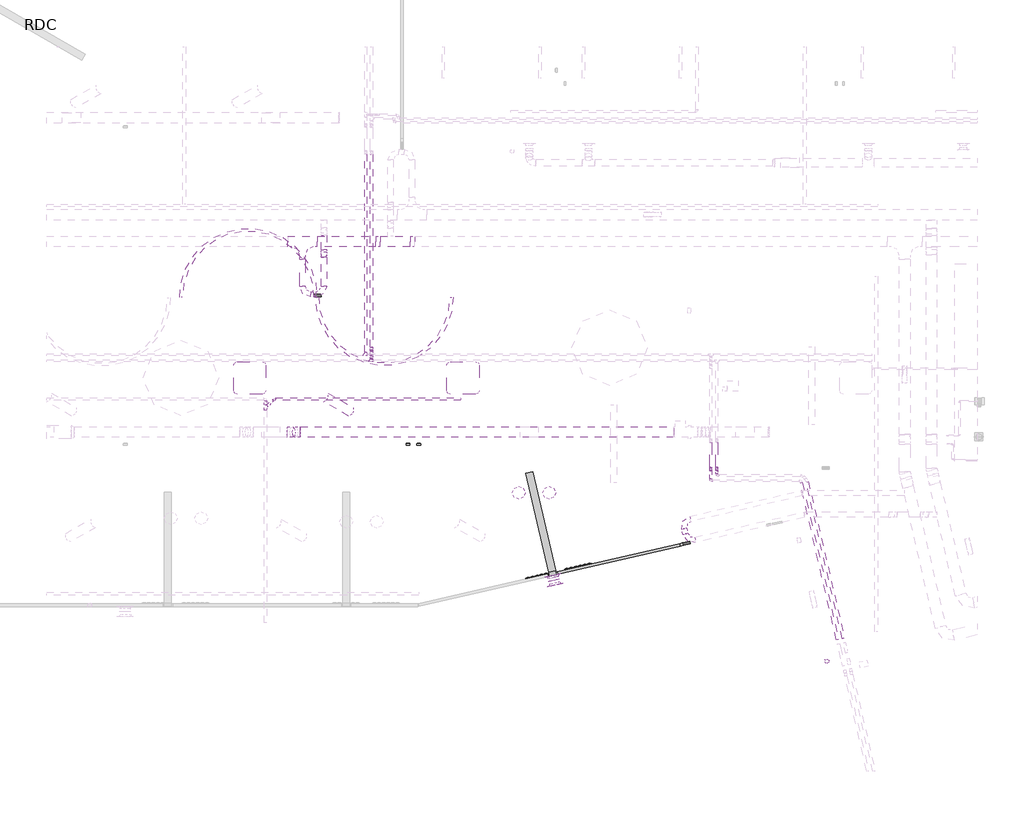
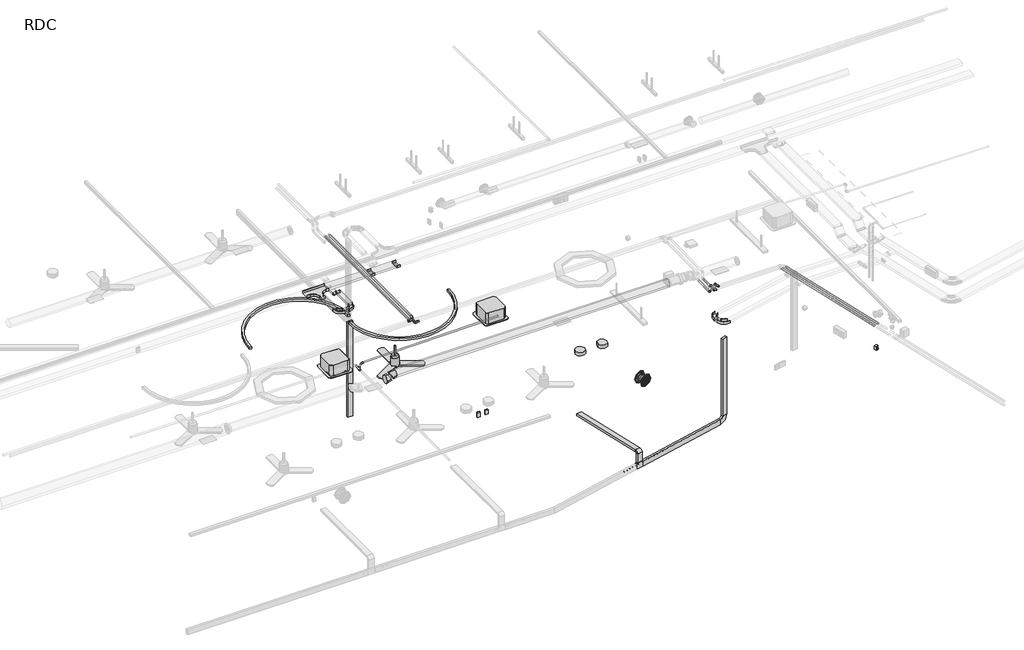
# One storey, part 5 of 15: 18 proxies, 16 pipe segments, 13 pipe fittings, 9 cable carrier fittings, 8 cable carrier segments, 7 duct segments, 5 duct fittings, 4 light fixtures, 2 air terminals.
"""IFC4 building model written with IfcOpenShell, lengths in millimetres."""

from ifc_helpers import new_model, si_unit, point, frame, frame_2d, origin, origin_with_axes, place, context, project, spatial, polyline, circle_curve, trimmed, segment, composite_curve, outline, extrude, transform, mapped, element, save
from components import air_terminal_8fbfe4fd, electrical_fixtures_f93b5bb2, electrical_fixtures_7208e772, security_devices_b28b6cb9, electrical_fixtures_3a4acf06, mechanical_equipment_4a9d14a3, cassette_600x600_07ba985d, cable_carrier_fitting_150mm_radius_0ad93986, standard_8ca7ba67, standaard_2330e57b, standaard_15b901d2, standaard_b1635a4a, coude_circulaire_1_d_01b5a2fb, coude_rectangulaire_rayon_1_w_45743452, coude_rectangulaire_rayon_1_w_bc62d8c9, standard_70f4f62f, ai_luminaire_concept_s_angle_d93a71be, ai_luminaire_spot_downlight_a3_0014797d, standard_c4f152d3, standard_378eef83, standard_a87af493, standard_ff5d54bc, standard_8dba9d94, standard_92dc9eea

model = new_model("IFC4")

# Units and contexts
model_context = context("Model", 3, world=origin())
ifc_project = project(units=[si_unit("LENGTHUNIT", "METRE", prefix="MILLI")], contexts=[model_context])

# Site, building, storey
site = spatial("IfcSite", under=ifc_project)
building = spatial("IfcBuilding", under=site)
storey = spatial("IfcBuildingStorey", under=building, Name="RDC", Elevation=0.0)

# Air terminals
placement = place(None, origin())
air_terminal_shape = air_terminal_8fbfe4fd(model_context)
element("IfcAirTerminal", 1, ObjectType="AI_Bouche aération_Circulaire Soufflage : ø200 mm", at=placement, inside=storey, context=model_context, shape_type="MappedRepresentation", body=[
    mapped(air_terminal_shape, transform((24759.6604659, 1522.5682878, 2675.0), x_axis=(0.9743700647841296, 0.22495105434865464, 0.0), y_axis=(0.0, 0.0, -1.0000000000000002), z_axis=(-0.22495105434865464, 0.9743700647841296, 0.0))),
])
element("IfcAirTerminal", 2, ObjectType="AI_Bouche aération_Circulaire Extraction : ø200 mm", at=placement, inside=storey, context=model_context, shape_type="MappedRepresentation", body=[
    mapped(air_terminal_shape, transform((24719.1692762, 1697.9548976, 2675.0), x_axis=(0.0, 0.0, 1.0), y_axis=(-0.9743700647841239, -0.22495105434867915, 0.0), z_axis=(0.22495105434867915, -0.9743700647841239, 0.0))),
])

# Proxies
electrical_fixtures_shape = electrical_fixtures_f93b5bb2(model_context)
element("IfcBuildingElementProxy", 3, Name="AI_Instal elec_Prise RJ45 : RJ 45 Murale", ObjectType="AI_Instal elec_Prise RJ45 : RJ 45 Murale", at=placement, inside=storey, context=model_context, shape_type="MappedRepresentation", body=[
    mapped(electrical_fixtures_shape, transform((25061.0709159, 1828.2043161, 300.0), x_axis=(0.9743700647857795, 0.22495105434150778, 0.0), y_axis=(-0.22495105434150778, 0.9743700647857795, 0.0), z_axis=(0.0, 0.0, 1.0))),
])
element("IfcBuildingElementProxy", 4, Name="AI_Instal elec_Prise RJ45 : RJ 45 Murale", ObjectType="AI_Instal elec_Prise RJ45 : RJ 45 Murale", at=placement, inside=storey, context=model_context, shape_type="MappedRepresentation", body=[
    mapped(electrical_fixtures_shape, transform((24978.2494604, 1809.0834765, 300.0), x_axis=(0.9743700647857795, 0.22495105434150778, 0.0), y_axis=(-0.22495105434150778, 0.9743700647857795, 0.0), z_axis=(0.0, 0.0, 1.0))),
])
element("IfcBuildingElementProxy", 5, Name="AI_Instal elec_Prise RJ45 : RJ 45 Murale", ObjectType="AI_Instal elec_Prise RJ45 : RJ 45 Murale", at=placement, inside=storey, context=model_context, shape_type="MappedRepresentation", body=[
    mapped(electrical_fixtures_shape, transform((24340.0370679, 1661.7405359, 300.0), x_axis=(0.9743700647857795, 0.22495105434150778, 0.0), y_axis=(-0.22495105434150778, 0.9743700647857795, 0.0), z_axis=(0.0, 0.0, 1.0))),
])
element("IfcBuildingElementProxy", 6, Name="AI_Instal elec_Prise RJ45 : RJ 45 Murale", ObjectType="AI_Instal elec_Prise RJ45 : RJ 45 Murale", at=placement, inside=storey, context=model_context, shape_type="MappedRepresentation", body=[
    mapped(electrical_fixtures_shape, transform((24257.2156124, 1642.6196962, 300.0), x_axis=(0.9743700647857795, 0.22495105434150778, 0.0), y_axis=(-0.22495105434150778, 0.9743700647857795, 0.0), z_axis=(0.0, 0.0, 1.0))),
])
electrical_fixtures_2_shape = electrical_fixtures_7208e772(model_context)
element("IfcBuildingElementProxy", 7, Name="AI_Instal elec_PC 16A +T à 0,30m : PC 16A +T à 0,30m", ObjectType="AI_Instal elec_PC 16A +T à 0,30m : PC 16A +T à 0,30m", at=placement, inside=storey, context=model_context, shape_type="MappedRepresentation", body=[
    mapped(electrical_fixtures_2_shape, transform((25392.3567379, 1904.6876746, 300.0), x_axis=(0.9743700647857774, 0.224951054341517, 0.0), y_axis=(-0.224951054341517, 0.9743700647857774, 0.0), z_axis=(0.0, 0.0, 1.0))),
])
element("IfcBuildingElementProxy", 8, Name="AI_Instal elec_PC 16A +T à 0,30m : PC 16A +T à 0,30m", ObjectType="AI_Instal elec_PC 16A +T à 0,30m : PC 16A +T à 0,30m", at=placement, inside=storey, context=model_context, shape_type="MappedRepresentation", body=[
    mapped(electrical_fixtures_2_shape, transform((25309.5352824, 1885.5668349, 300.0), x_axis=(0.9743700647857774, 0.224951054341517, 0.0), y_axis=(-0.224951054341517, 0.9743700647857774, 0.0), z_axis=(0.0, 0.0, 1.0))),
])
element("IfcBuildingElementProxy", 9, Name="AI_Instal elec_PC 16A +T à 0,30m : PC 16A +T à 0,30m", ObjectType="AI_Instal elec_PC 16A +T à 0,30m : PC 16A +T à 0,30m", at=placement, inside=storey, context=model_context, shape_type="MappedRepresentation", body=[
    mapped(electrical_fixtures_2_shape, transform((24671.32289, 1738.2238943, 300.0), x_axis=(0.9743700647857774, 0.224951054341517, 0.0), y_axis=(-0.224951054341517, 0.9743700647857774, 0.0), z_axis=(0.0, 0.0, 1.0))),
])
element("IfcBuildingElementProxy", 10, Name="AI_Instal elec_PC 16A +T à 0,30m : PC 16A +T à 0,30m", ObjectType="AI_Instal elec_PC 16A +T à 0,30m : PC 16A +T à 0,30m", at=placement, inside=storey, context=model_context, shape_type="MappedRepresentation", body=[
    mapped(electrical_fixtures_2_shape, transform((24588.5014345, 1719.1030547, 300.0), x_axis=(0.9743700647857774, 0.224951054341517, 0.0), y_axis=(-0.224951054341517, 0.9743700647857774, 0.0), z_axis=(0.0, 0.0, 1.0))),
])
element("IfcBuildingElementProxy", 11, Name="AI_Instal elec_Prise de courant 2P+T 16A ondulée : AI_Instal elec_Prise de courant 2P+T 16A ondulée", ObjectType="AI_Instal elec_Prise de courant 2P+T 16A ondulée : AI_Instal elec_Prise de courant 2P+T 16A ondulée", at=placement, inside=storey, context=model_context, shape_type="MappedRepresentation", body=[
    mapped(electrical_fixtures_2_shape, transform((25226.7138269, 1866.4459953, 300.0), x_axis=(0.974370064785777, 0.22495105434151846, 0.0), y_axis=(-0.22495105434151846, 0.974370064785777, 0.0), z_axis=(0.0, 0.0, 1.0))),
])
element("IfcBuildingElementProxy", 12, Name="AI_Instal elec_Prise de courant 2P+T 16A ondulée : AI_Instal elec_Prise de courant 2P+T 16A ondulée", ObjectType="AI_Instal elec_Prise de courant 2P+T 16A ondulée : AI_Instal elec_Prise de courant 2P+T 16A ondulée", at=placement, inside=storey, context=model_context, shape_type="MappedRepresentation", body=[
    mapped(electrical_fixtures_2_shape, transform((25143.8923714, 1847.3251557, 300.0), x_axis=(0.974370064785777, 0.22495105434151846, 0.0), y_axis=(-0.22495105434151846, 0.974370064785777, 0.0), z_axis=(0.0, 0.0, 1.0))),
])
element("IfcBuildingElementProxy", 13, Name="AI_Instal elec_Prise de courant 2P+T 16A ondulée : AI_Instal elec_Prise de courant 2P+T 16A ondulée", ObjectType="AI_Instal elec_Prise de courant 2P+T 16A ondulée : AI_Instal elec_Prise de courant 2P+T 16A ondulée", at=placement, inside=storey, context=model_context, shape_type="MappedRepresentation", body=[
    mapped(electrical_fixtures_2_shape, transform((24505.679979, 1699.9822151, 300.0), x_axis=(0.974370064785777, 0.22495105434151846, 0.0), y_axis=(-0.22495105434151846, 0.974370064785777, 0.0), z_axis=(0.0, 0.0, 1.0))),
])
element("IfcBuildingElementProxy", 14, Name="AI_Instal elec_Prise de courant 2P+T 16A ondulée : AI_Instal elec_Prise de courant 2P+T 16A ondulée", ObjectType="AI_Instal elec_Prise de courant 2P+T 16A ondulée : AI_Instal elec_Prise de courant 2P+T 16A ondulée", at=placement, inside=storey, context=model_context, shape_type="MappedRepresentation", body=[
    mapped(electrical_fixtures_2_shape, transform((24422.8585235, 1680.8613755, 300.0), x_axis=(0.974370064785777, 0.22495105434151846, 0.0), y_axis=(-0.22495105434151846, 0.974370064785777, 0.0), z_axis=(0.0, 0.0, 1.0))),
])
security_devices_shape = security_devices_b28b6cb9(model_context)
element("IfcBuildingElementProxy", 15, Name="AI_Disp secu_Détecteur volumétrique : Presence Detector - 70 x 100 x 70", ObjectType="AI_Disp secu_Détecteur volumétrique : Presence Detector - 70 x 100 x 70", at=placement, inside=storey, context=model_context, shape_type="MappedRepresentation", body=[
    mapped(security_devices_shape, transform((29780.0653035, 97.0381912, 2600.7684954), x_axis=(-0.22495105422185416, 0.9743700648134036, 0.0), y_axis=(-0.9743700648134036, -0.22495105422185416, 0.0), z_axis=(0.0, 0.0, 1.0))),
])
electrical_fixtures_3_shape = electrical_fixtures_3a4acf06(model_context)
element("IfcBuildingElementProxy", 16, Name="AI_Instal elec_Brasseur d'air : AI_Instal elec_Brasseur d'air", ObjectType="AI_Instal elec_Brasseur d'air : AI_Instal elec_Brasseur d'air", at=placement, inside=storey, context=model_context, shape_type="MappedRepresentation", body=[
    mapped(electrical_fixtures_3_shape, transform((20426.2200667, 5049.0927, 2500.0), x_axis=(1.0, 0.0, 0.0), y_axis=(0.0, 1.0, 0.0), z_axis=(0.0, 0.0, 1.0))),
])
mechanical_equipment_shape = mechanical_equipment_4a9d14a3(model_context)
element("IfcBuildingElementProxy", 17, Name="AI_Eqpmt genie clim_Commande murale Clim : Commande murale Clim", ObjectType="AI_Eqpmt genie clim_Commande murale Clim : Commande murale Clim", at=placement, inside=storey, context=model_context, shape_type="MappedRepresentation", body=[
    mapped(mechanical_equipment_shape, transform((22022.9133491, 4119.3027165, 1130.0), x_axis=(1.0, 0.0, 0.0), y_axis=(0.0, 1.0, 0.0), z_axis=(0.0, 0.0, 1.0))),
])
element("IfcBuildingElementProxy", 18, Name="AI_Eqpmt genie clim_Commande murale Clim : Commande murale Clim", ObjectType="AI_Eqpmt genie clim_Commande murale Clim : Commande murale Clim", at=placement, inside=storey, context=model_context, shape_type="MappedRepresentation", body=[
    mapped(mechanical_equipment_shape, transform((22222.9745923, 4119.3027165, 1130.0), x_axis=(1.0, 0.0, 0.0), y_axis=(0.0, 1.0, 0.0), z_axis=(0.0, 0.0, 1.0))),
])
cassette_600x600_shape = cassette_600x600_07ba985d(model_context)
element("IfcBuildingElementProxy", 19, Name="AI_Eqpmt genie clim_Cassette plafonnière : Cassette 600x600", ObjectType="AI_Eqpmt genie clim_Cassette plafonnière : Cassette 600x600", at=placement, inside=storey, context=model_context, shape_type="MappedRepresentation", body=[
    mapped(cassette_600x600_shape, transform((18217.2942225, 6159.5368143, 2660.0), x_axis=(1.0, 0.0, 0.0), y_axis=(0.0, 1.0, 0.0), z_axis=(0.0, 0.0, 1.0))),
])
element("IfcBuildingElementProxy", 20, Name="AI_Eqpmt genie clim_Cassette plafonnière : Cassette 600x600", ObjectType="AI_Eqpmt genie clim_Cassette plafonnière : Cassette 600x600", at=placement, inside=storey, context=model_context, shape_type="MappedRepresentation", body=[
    mapped(cassette_600x600_shape, transform((22177.2942225, 6159.5368143, 2680.0), x_axis=(1.0, 0.0, 0.0), y_axis=(0.0, 1.0, 0.0), z_axis=(0.0, 0.0, 1.0))),
])

# Cable carrier fittings
cable_carrier_fitting_150mm_radius_shape = cable_carrier_fitting_150mm_radius_0ad93986(model_context)
element("IfcCableCarrierFitting", 21, ObjectType="AI_Raccord cdc_Té : 150mm Radius", at=placement, inside=storey, context=model_context, shape_type="MappedRepresentation", body=[
    mapped(cable_carrier_fitting_150mm_radius_shape, transform((20062.4237892, 7902.2308907, 2856.9968882), x_axis=(1.0, 0.0, 0.0), y_axis=(0.0, 1.0, 0.0), z_axis=(0.0, 0.0, 1.0))),
])
standard_shape = standard_8ca7ba67(model_context)
element("IfcCableCarrierFitting", 22, ObjectType="Chemin de câbles - Union : Standard", at=placement, inside=storey, context=model_context, shape_type="MappedRepresentation", body=[
    mapped(standard_shape, transform((22068.8980101, 7902.2308907, 2856.9968882), x_axis=(1.0, 0.0, 0.0), y_axis=(0.0, 1.0, 0.0), z_axis=(0.0, 0.0, 1.0))),
])
element("IfcCableCarrierFitting", 23, ObjectType="Chemin de câbles - Union : Standard", at=placement, inside=storey, context=model_context, shape_type="MappedRepresentation", body=[
    mapped(standard_shape, transform((21428.8980101, 7902.2308907, 2856.9968882), x_axis=(1.0, 0.0, 0.0), y_axis=(0.0, 1.0, 0.0), z_axis=(0.0, 0.0, 1.0))),
])
standaard_shape = standaard_2330e57b(model_context)
element("IfcCableCarrierFitting", 24, ObjectType="AI_Raccord cdc_Coude desencdant : standaard", at=placement, inside=storey, context=model_context, shape_type="MappedRepresentation", body=[
    mapped(standaard_shape, transform((20462.4237892, 7625.8933593, 2856.9968882), x_axis=(0.0, 1.0, 0.0), y_axis=(0.0, 0.0, -1.0), z_axis=(-1.0, 0.0, 0.0))),
])
standaard_2_shape = standaard_15b901d2(model_context)
element("IfcCableCarrierFitting", 25, ObjectType="AI_Raccord cdc_Coude montant : standaard", at=placement, inside=storey, context=model_context, shape_type="MappedRepresentation", body=[
    mapped(standaard_2_shape, transform((20462.4237892, 7739.0304443, 2743.8598032), x_axis=(0.0, 0.7071067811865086, -0.7071067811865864), y_axis=(0.0, 0.7071067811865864, 0.7071067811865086), z_axis=(1.0, 0.0, 0.0))),
])
standaard_3_shape = standaard_b1635a4a(model_context)
element("IfcCableCarrierFitting", 26, ObjectType="AI_Raccord cdc_Coude horizontal rayon court : standaard", at=placement, inside=storey, context=model_context, shape_type="MappedRepresentation", body=[
    mapped(standaard_3_shape, transform((20462.4237892, 6923.5628771, 2856.9968882), x_axis=(1.0, 0.0, 0.0), y_axis=(0.0, 1.0, 0.0), z_axis=(0.0, 0.0, 1.0))),
])
element("IfcCableCarrierFitting", 27, ObjectType="AI_Raccord cdc_Coude horizontal rayon court : standaard", at=placement, inside=storey, context=model_context, shape_type="MappedRepresentation", body=[
    mapped(standaard_3_shape, transform((20062.4237892, 6923.5628771, 2856.9968882), x_axis=(0.0, -1.0, 0.0), y_axis=(1.0, 0.0, 0.0), z_axis=(0.0, 0.0, 1.0))),
])
element("IfcCableCarrierFitting", 28, ObjectType="AI_Raccord cdc_Coude horizontal rayon court : standaard", at=placement, inside=storey, context=model_context, shape_type="MappedRepresentation", body=[
    mapped(standaard_3_shape, transform((27211.977187, 2324.7755041, 2856.9968882), x_axis=(0.22495561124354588, -0.9743690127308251, 0.0), y_axis=(0.9743690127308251, 0.22495561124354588, 0.0), z_axis=(0.0, 0.0, 1.0))),
])
element("IfcCableCarrierFitting", 29, ObjectType="AI_Raccord cdc_Coude horizontal rayon court : standaard", at=placement, inside=storey, context=model_context, shape_type="MappedRepresentation", body=[
    mapped(standaard_3_shape, transform((27121.9949425, 2714.5231092, 2856.9968882), x_axis=(-0.9743690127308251, -0.22495561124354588, 0.0), y_axis=(0.22495561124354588, -0.9743690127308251, 0.0), z_axis=(0.0, 0.0, 1.0))),
])

# Cable carrier segments
element("IfcCableCarrierSegment", 30, ObjectType="Par défaut", at=placement, inside=storey, context=model_context, shape_type="SweptSolid", body=[
    extrude(outline(polyline([(21508.8980101, 7802.2308907), (21508.8980101, 8002.2308907), (22068.8980101, 8002.2308907), (22068.8980101, 7802.2308907), (21508.8980101, 7802.2308907)])), frame((0.0, 0.0, 2826.9968882), z_axis=(0.0, 0.0, 1.0), x_axis=(1.0, 0.0, 0.0)), (0.0, 0.0, 1.0), 60.0),
])
element("IfcCableCarrierSegment", 31, ObjectType="Par défaut", at=placement, inside=storey, context=model_context, shape_type="SweptSolid", body=[
    extrude(outline(polyline([(20112.4237892, 7074.5628771), (20012.4237892, 7074.5628771), (20012.4237892, 7577.2308907), (20112.4237892, 7577.2308907), (20112.4237892, 7074.5628771)])), frame((0.0, 0.0, 2826.9968882), z_axis=(0.0, 0.0, 1.0), x_axis=(1.0, 0.0, 0.0)), (0.0, 0.0, 1.0), 60.0),
])
element("IfcCableCarrierSegment", 32, ObjectType="Par défaut", at=placement, inside=storey, context=model_context, shape_type="SweptSolid", body=[
    extrude(outline(polyline([(20512.4237892, 7074.5628771), (20412.4237892, 7074.5628771), (20412.4237892, 7612.0527389), (20512.4237892, 7612.0527389), (20512.4237892, 7074.5628771)])), frame((0.0, 0.0, 2826.9968882), z_axis=(0.0, 0.0, 1.0), x_axis=(1.0, 0.0, 0.0)), (0.0, 0.0, 1.0), 60.0),
])
element("IfcCableCarrierSegment", 33, ObjectType="Par défaut", at=placement, inside=storey, context=model_context, shape_type="SweptSolid", body=[
    extrude(outline(polyline([(0.0, -100.0), (0.0, 0.0), (132.318759, 0.0), (132.318759, -100.0), (0.0, -100.0)])), frame((20412.4237892, 7614.4669525, 2825.9968882), z_axis=(0.0, 0.7071067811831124, 0.7071067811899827), x_axis=(0.0, 0.7071067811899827, -0.7071067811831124)), (0.0, 0.0, 1.0), 60.0),
])
element("IfcCableCarrierSegment", 34, ObjectType="Par défaut", at=placement, inside=storey, context=model_context, shape_type="SweptSolid", body=[
    extrude(outline(polyline([(20512.4237892, 7752.8710648), (20412.4237892, 7752.8710648), (20412.4237892, 8018.1097031), (20512.4237892, 8018.1097031), (20512.4237892, 7752.8710648)])), frame((0.0, 0.0, 2713.8598032), z_axis=(0.0, 0.0, 1.0), x_axis=(1.0, 0.0, 0.0)), (0.0, 0.0, 1.0), 60.0),
])
element("IfcCableCarrierSegment", 35, ObjectType="Par défaut", at=placement, inside=storey, context=model_context, shape_type="SweptSolid", body=[
    extrude(outline(polyline([(20311.4237892, 6973.5628771), (20311.4237892, 6873.5628771), (20213.4237892, 6873.5628771), (20213.4237892, 6973.5628771), (20311.4237892, 6973.5628771)])), frame((0.0, 0.0, 2826.9968882), z_axis=(0.0, 0.0, 1.0), x_axis=(1.0, 0.0, 0.0)), (0.0, 0.0, 1.0), 60.0),
])
element("IfcCableCarrierSegment", 36, ObjectType="Par défaut", at=placement, inside=storey, context=model_context, shape_type="SweptSolid", body=[
    extrude(outline(polyline([(21428.8980101, 8002.2308907), (21428.8980101, 7802.2308907), (20337.4237892, 7802.2308907), (20337.4237892, 8002.2308907), (21428.8980101, 8002.2308907)])), frame((0.0, 0.0, 2826.9968882), z_axis=(0.0, 0.0, 1.0), x_axis=(1.0, 0.0, 0.0)), (0.0, 0.0, 1.0), 60.0),
])
element("IfcCableCarrierSegment", 37, ObjectType="Par défaut", at=placement, inside=storey, context=model_context, shape_type="SweptSolid", body=[
    extrude(outline(polyline([(27226.7273403, 2483.1530056), (27129.2904391, 2460.6574444), (27107.2447892, 2556.1456077), (27204.6816904, 2578.6411688), (27226.7273403, 2483.1530056)])), frame((0.0, 0.0, 2826.9968882), z_axis=(0.0, 0.0, 1.0), x_axis=(1.0, 0.0, 0.0)), (0.0, 0.0, 1.0), 60.0),
])

# Duct fittings
coude_circulaire_1_d_shape = coude_circulaire_1_d_01b5a2fb(model_context)
element("IfcDuctFitting", 38, ObjectType="Coude circulaire : 1 D", at=placement, inside=storey, context=model_context, shape_type="MappedRepresentation", body=[
    mapped(coude_circulaire_1_d_shape, transform((19833.3563563, 4361.9215834, 2720.0), x_axis=(-0.8660254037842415, 0.0, -0.5000000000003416), y_axis=(-0.5000000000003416, 0.0, 0.8660254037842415), z_axis=(0.0, 1.0, 0.0))),
])
element("IfcDuctFitting", 39, ObjectType="Coude circulaire : 1 D", at=placement, inside=storey, context=model_context, shape_type="MappedRepresentation", body=[
    mapped(coude_circulaire_1_d_shape, transform((19971.9204209, 4361.9215834, 2800.0), x_axis=(0.8660254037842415, 0.0, 0.5000000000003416), y_axis=(0.5000000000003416, 0.0, -0.8660254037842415), z_axis=(0.0, 1.0, 0.0))),
])
coude_rectangulaire_rayon_1_w_shape = coude_rectangulaire_rayon_1_w_45743452(model_context)
element("IfcDuctFitting", 40, ObjectType="Coude rectangulaire - Rayon : 1 W", at=placement, inside=storey, context=model_context, shape_type="MappedRepresentation", body=[
    mapped(coude_rectangulaire_rayon_1_w_shape, transform((24713.5454998, 1722.3141492, 676.7942343), x_axis=(0.22495105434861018, -0.9743700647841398, 0.0), y_axis=(0.0, 0.0, -1.0000000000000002), z_axis=(0.9743700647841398, 0.22495105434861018, 0.0))),
])
coude_rectangulaire_rayon_1_w_2_shape = coude_rectangulaire_rayon_1_w_bc62d8c9(model_context)
element("IfcDuctFitting", 41, ObjectType="Coude rectangulaire - Rayon : 1 W", at=placement, inside=storey, context=model_context, shape_type="MappedRepresentation", body=[
    mapped(coude_rectangulaire_rayon_1_w_2_shape, transform((27202.2207661, 2296.8701062, 300.0), x_axis=(0.9743700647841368, 0.2249510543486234, 0.0), y_axis=(0.0, 0.0, 1.0000000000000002), z_axis=(0.2249510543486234, -0.9743700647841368, 0.0))),
])
standard_2_shape = standard_70f4f62f(model_context)
element("IfcDuctFitting", 42, ObjectType="Té rectangulaire : Standard", at=placement, inside=storey, context=model_context, shape_type="MappedRepresentation", body=[
    mapped(standard_2_shape, transform((24713.5454998, 1722.3141492, 300.0), x_axis=(-0.9743700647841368, -0.22495105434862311, 0.0), y_axis=(0.0, 0.0, -1.0), z_axis=(0.22495105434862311, -0.9743700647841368, 0.0))),
])

# Duct segments
element("IfcDuctSegment", 43, ObjectType="Circulaire - Té", at=placement, inside=storey, context=model_context, shape_type="SweptSolid", body=[
    extrude(outline(composite_curve([segment(trimmed(circle_curve(frame_2d((4361.9215834, 2800.0)), 100.0), [point((4461.9215834, 2800.0))], [point((4361.9215834, 2700.0))], False, "CARTESIAN"), True, "CONTINUOUS"), segment(trimmed(circle_curve(frame_2d((4361.9215834, 2800.0)), 100.0), [point((4361.9215834, 2700.0))], [point((4261.9215834, 2800.0))], False, "CARTESIAN"), True, "CONTINUOUS"), segment(trimmed(circle_curve(frame_2d((4361.9215834, 2800.0)), 100.0), [point((4261.9215834, 2800.0))], [point((4361.9215834, 2900.0))], False, "CARTESIAN"), True, "CONTINUOUS"), segment(trimmed(circle_curve(frame_2d((4361.9215834, 2800.0)), 100.0), [point((4361.9215834, 2900.0))], [point((4461.9215834, 2800.0))], False, "CARTESIAN"), True, "CONTINUOUS")], self_intersect=False)), frame((20025.5102594, 0.0, 0.0), z_axis=(1.0, 0.0, 0.0), x_axis=(0.0, 1.0, 0.0)), (0.0, 0.0, 1.0), 6937.4340993),
])
element("IfcDuctSegment", 44, ObjectType="Circulaire - Té", at=placement, inside=storey, context=model_context, shape_type="SweptSolid", body=[
    extrude(outline(composite_curve([segment(trimmed(circle_curve(frame_2d((0.0, -100.0)), 100.0), [point((-100.0, -100.0))], [point((0.0, 0.0))], False, "CARTESIAN"), True, "CONTINUOUS"), segment(trimmed(circle_curve(frame_2d((0.0, -100.0)), 100.0), [point((0.0, 0.0))], [point((100.0, -100.0))], False, "CARTESIAN"), True, "CONTINUOUS"), segment(trimmed(circle_curve(frame_2d((0.0, -100.0)), 100.0), [point((100.0, -100.0))], [point((0.0, -200.0))], False, "CARTESIAN"), True, "CONTINUOUS"), segment(trimmed(circle_curve(frame_2d((0.0, -100.0)), 100.0), [point((0.0, -200.0))], [point((-100.0, -100.0))], False, "CARTESIAN"), True, "CONTINUOUS")], self_intersect=False)), frame((24740.1797046, 1606.9487354, 2575.0), z_axis=(-0.22495110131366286, 0.9743700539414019, 0.0), x_axis=(0.9743700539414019, 0.22495110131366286, 0.0)), (0.0, 0.0, 1.0), 6.7999982),
])
element("IfcDuctSegment", 45, ObjectType="Goulotte", at=placement, inside=storey, context=model_context, shape_type="SweptSolid", body=[
    extrude(outline(polyline([(20408.140479, 6925.3065621), (20408.4862547, 6875.3077577), (20278.4893633, 6874.4087409), (20278.1435876, 6924.4075452), (20408.140479, 6925.3065621)])), origin_with_axes(), (0.0, 0.0, 1.0), 2546.9968882),
])
element("IfcDuctSegment", 46, ObjectType="Goulotte", at=placement, inside=storey, context=model_context, shape_type="SweptSolid", body=[
    extrude(outline(polyline([(27144.5104882, 2257.8890361), (27133.2629355, 2306.6075393), (27259.9310439, 2335.8511764), (27271.1785967, 2287.1326731), (27144.5104882, 2257.8890361)])), frame((0.0, 0.0, 430.0), z_axis=(0.0, 0.0, 1.0), x_axis=(1.0, 0.0, 0.0)), (0.0, 0.0, 1.0), 2070.0),
])
element("IfcDuctSegment", 47, ObjectType="Goulotte", at=placement, inside=storey, context=model_context, shape_type="SweptSolid", body=[
    extrude(outline(polyline([(24765.6320013, 1785.654471), (24638.9638929, 1756.4108339), (24213.8064002, 3597.9702564), (24340.4745086, 3627.2138934), (24765.6320013, 1785.654471)])), frame((0.0, 0.0, 651.7942343), z_axis=(0.0, 0.0, 1.0), x_axis=(1.0, 0.0, 0.0)), (0.0, 0.0, 1.0), 50.0),
])
element("IfcDuctSegment", 48, ObjectType="Goulotte", at=placement, inside=storey, context=model_context, shape_type="SweptSolid", body=[
    extrude(outline(polyline([(24655.835222, 1683.3330791), (24644.5876693, 1732.0515823), (24771.2557777, 1761.2952194), (24782.5033304, 1712.5767161), (24655.835222, 1683.3330791)])), frame((0.0, 0.0, 390.0), z_axis=(0.0, 0.0, 1.0), x_axis=(1.0, 0.0, 0.0)), (0.0, 0.0, 1.0), 236.7942343),
])
element("IfcDuctSegment", 49, ObjectType="Goulotte", at=placement, inside=storey, context=model_context, shape_type="SweptSolid", body=[
    extrude(outline(polyline([(27069.9288813, 2291.9857208), (27081.176434, 2243.2672176), (24806.862582, 1718.2004925), (24795.6150293, 1766.9189957), (27069.9288813, 2291.9857208)])), frame((0.0, 0.0, 235.0), z_axis=(0.0, 0.0, 1.0), x_axis=(1.0, 0.0, 0.0)), (0.0, 0.0, 1.0), 130.0),
])

# Light fixtures
ai_luminaire_concept_s_angle_shape = ai_luminaire_concept_s_angle_d93a71be(model_context)
element("IfcLightFixture", 50, ObjectType="AI_Luminaire_CONCEPT S_Angle : CONCEPTION S", at=placement, inside=storey, context=model_context, shape_type="MappedRepresentation", body=[
    mapped(ai_luminaire_concept_s_angle_shape, transform((20307.1962081, 6871.8786015, 2760.0), x_axis=(-0.9999999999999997, -2.7657710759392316e-08, 0.0), y_axis=(2.7657710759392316e-08, -0.9999999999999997, 0.0), z_axis=(0.0, 0.0, 1.0))),
])
element("IfcLightFixture", 51, ObjectType="AI_Luminaire_CONCEPT S_Angle : CONCEPTION S", at=placement, inside=storey, context=model_context, shape_type="MappedRepresentation", body=[
    mapped(ai_luminaire_concept_s_angle_shape, transform((20334.6962081, 6871.8786022, 2560.0), x_axis=(0.9999999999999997, 2.7657710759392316e-08, 0.0), y_axis=(-2.7657710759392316e-08, 0.9999999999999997, 0.0), z_axis=(0.0, 0.0, 1.0))),
])
ai_luminaire_spot_downlight_a3_shape = ai_luminaire_spot_downlight_a3_0014797d(model_context)
element("IfcLightFixture", 52, ObjectType="AI_Luminaire_Spot Downlight : A3", at=placement, inside=storey, context=model_context, shape_type="MappedRepresentation", body=[
    mapped(ai_luminaire_spot_downlight_a3_shape, transform((24648.543313, 3232.8765089, 2700.0), x_axis=(-1.0, 0.0, 0.0), y_axis=(0.0, -1.0, 0.0), z_axis=(0.0, 0.0, 1.0))),
])
element("IfcLightFixture", 53, ObjectType="AI_Luminaire_Spot Downlight : A3", at=placement, inside=storey, context=model_context, shape_type="MappedRepresentation", body=[
    mapped(ai_luminaire_spot_downlight_a3_shape, transform((24085.4652987, 3232.8765089, 2700.0), x_axis=(1.0, 0.0, 0.0), y_axis=(0.0, 1.0, 0.0), z_axis=(0.0, 0.0, 1.0))),
])

# Pipe fittings
standard_3_shape = standard_c4f152d3(model_context)
element("IfcPipeFitting", 54, ObjectType="Coude - Générique1 : Standard", at=placement, inside=storey, context=model_context, shape_type="MappedRepresentation", body=[
    mapped(standard_3_shape, transform((19537.7457994, 4977.4866519, 2876.2148571), x_axis=(-0.9999500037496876, 0.0, -0.009999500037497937), y_axis=(0.00010231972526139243, -0.9999476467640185, -0.010231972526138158), z_axis=(-0.009998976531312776, -0.010232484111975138, 0.9998976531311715))),
])
standard_4_shape = standard_378eef83(model_context)
element("IfcPipeFitting", 55, ObjectType="Té - Générique : Standard", at=placement, inside=storey, context=model_context, shape_type="MappedRepresentation", body=[
    mapped(standard_4_shape, transform((19376.3565739, 4816.0974286, 2872.991766), x_axis=(0.0, 0.9999500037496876, 0.009999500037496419), y_axis=(-0.9999476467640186, 0.00010231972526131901, -0.010231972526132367), z_axis=(-0.010232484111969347, -0.009998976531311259, 0.9998976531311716))),
])
standard_5_shape = standard_a87af493(model_context)
element("IfcPipeFitting", 56, ObjectType="Coude - Générique1 : Standard", at=placement, inside=storey, context=model_context, shape_type="MappedRepresentation", body=[
    mapped(standard_5_shape, transform((21348.6271336, 5842.9287758, 2856.7309575), x_axis=(0.0, -0.7071067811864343, -0.7071067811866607), y_axis=(0.0, -0.7071067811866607, 0.7071067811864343), z_axis=(-1.0, 0.0, 0.0))),
])
element("IfcPipeFitting", 57, ObjectType="Coude - Générique1 : Standard", at=placement, inside=storey, context=model_context, shape_type="MappedRepresentation", body=[
    mapped(standard_5_shape, transform((21348.6271336, 5749.5383893, 2856.7309575), x_axis=(0.0, -1.0, 0.0), y_axis=(0.0, 0.0, 1.0), z_axis=(-1.0, 0.0, 0.0))),
])
element("IfcPipeFitting", 58, ObjectType="Coude - Générique1 : Standard", at=placement, inside=storey, context=model_context, shape_type="MappedRepresentation", body=[
    mapped(standard_5_shape, transform((21348.6271336, 5904.4973183, 2918.2995), x_axis=(0.0, 0.7071067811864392, 0.7071067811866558), y_axis=(0.0, 0.7071067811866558, -0.7071067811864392), z_axis=(-1.0, 0.0, 0.0))),
])
standard_6_shape = standard_ff5d54bc(model_context)
element("IfcPipeFitting", 59, ObjectType="Té - Générique : Standard", at=placement, inside=storey, context=model_context, shape_type="MappedRepresentation", body=[
    mapped(standard_6_shape, transform((21348.6271336, 5687.9698468, 2918.2995), x_axis=(1.0, 0.0, 0.0), y_axis=(0.0, -0.7071067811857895, 0.7071067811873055), z_axis=(0.0, -0.7071067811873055, -0.7071067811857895))),
])
standard_7_shape = standard_8dba9d94(model_context)
element("IfcPipeFitting", 60, ObjectType="Coude - Générique1 : Standard", at=placement, inside=storey, context=model_context, shape_type="MappedRepresentation", body=[
    mapped(standard_7_shape, transform((27763.260576, 3675.2844533, 2730.0), x_axis=(0.0, -1.0, 0.0), y_axis=(0.0, 0.0, 1.0), z_axis=(-1.0, 0.0, 0.0))),
])
element("IfcPipeFitting", 61, ObjectType="Coude - Générique1 : Standard", at=placement, inside=storey, context=model_context, shape_type="MappedRepresentation", body=[
    mapped(standard_7_shape, transform((27763.260576, 3555.9392717, 2918.2995), x_axis=(0.0, -1.0, 0.0), y_axis=(1.0, 0.0, 0.0), z_axis=(0.0, 0.0, 1.0))),
])
element("IfcPipeFitting", 62, ObjectType="Coude - Générique1 : Standard", at=placement, inside=storey, context=model_context, shape_type="MappedRepresentation", body=[
    mapped(standard_7_shape, transform((27763.260576, 3675.2844533, 2918.2995), x_axis=(0.0, 0.0, 1.0), y_axis=(0.0, -1.0, 0.0), z_axis=(1.0, 0.0, 0.0))),
])
element("IfcPipeFitting", 63, ObjectType="Coude - Générique1 : Standard", at=placement, inside=storey, context=model_context, shape_type="MappedRepresentation", body=[
    mapped(standard_7_shape, transform((27648.460576, 3675.2844533, 2730.0), x_axis=(0.0, -1.0, 0.0), y_axis=(0.0, 0.0, 1.0), z_axis=(-1.0, 0.0, 0.0))),
])
element("IfcPipeFitting", 64, ObjectType="Coude - Générique1 : Standard", at=placement, inside=storey, context=model_context, shape_type="MappedRepresentation", body=[
    mapped(standard_7_shape, transform((27648.460576, 3459.4864212, 2918.2995), x_axis=(0.0, -1.0, 0.0), y_axis=(1.0, 0.0, 0.0), z_axis=(0.0, 0.0, 1.0))),
])
element("IfcPipeFitting", 65, ObjectType="Coude - Générique1 : Standard", at=placement, inside=storey, context=model_context, shape_type="MappedRepresentation", body=[
    mapped(standard_7_shape, transform((27648.460576, 3675.2844533, 2918.2995), x_axis=(0.0, 0.0, 1.0), y_axis=(0.0, -1.0, 0.0), z_axis=(1.0, 0.0, 0.0))),
])
standard_8_shape = standard_92dc9eea(model_context)
element("IfcPipeFitting", 66, ObjectType="Té - Générique : Standard", at=placement, inside=storey, context=model_context, shape_type="MappedRepresentation", body=[
    mapped(standard_8_shape, transform((21241.0704939, 5798.6260421, 2918.2995), x_axis=(0.999999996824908, 7.968804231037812e-05, 0.0), y_axis=(7.968804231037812e-05, -0.999999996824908, 0.0), z_axis=(0.0, 0.0, -1.0))),
])

# Pipe segments
element("IfcPipeSegment", 67, ObjectType="Acier - Té", at=placement, inside=storey, context=model_context, shape_type="SweptSolid", body=[
    extrude(outline(composite_curve([segment(trimmed(circle_curve(frame_2d((0.0, 21.082)), 21.082), [point((21.082, 21.082))], [point((0.0, 0.0))], False, "CARTESIAN"), True, "CONTINUOUS"), segment(trimmed(circle_curve(frame_2d((0.0, 21.082)), 21.082), [point((0.0, 0.0))], [point((-21.082, 21.082))], False, "CARTESIAN"), True, "CONTINUOUS"), segment(trimmed(circle_curve(frame_2d((0.0, 21.082)), 21.082), [point((-21.082, 21.082))], [point((0.0, 42.164))], False, "CARTESIAN"), True, "CONTINUOUS"), segment(trimmed(circle_curve(frame_2d((0.0, 21.082)), 21.082), [point((0.0, 42.164))], [point((21.082, 21.082))], False, "CARTESIAN"), True, "CONTINUOUS")], self_intersect=False)), frame((30114.0937146, 529.5434561, 2939.3815), z_axis=(-0.22496403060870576, 0.9743670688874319, 0.0), x_axis=(0.9743670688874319, 0.22496403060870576, 0.0)), (0.0, 0.0, 1.0), 2988.0),
])
element("IfcPipeSegment", 68, ObjectType="Acier - Té", at=placement, inside=storey, context=model_context, shape_type="SweptSolid", body=[
    extrude(outline(composite_curve([segment(trimmed(circle_curve(frame_2d((2918.2995, 27763.260576)), 21.082), [point((2918.2995, 27784.342576))], [point((2939.3815, 27763.260576))], False, "CARTESIAN"), True, "CONTINUOUS"), segment(trimmed(circle_curve(frame_2d((2918.2995, 27763.260576)), 21.082), [point((2939.3815, 27763.260576))], [point((2918.2995, 27742.178576))], False, "CARTESIAN"), True, "CONTINUOUS"), segment(trimmed(circle_curve(frame_2d((2918.2995, 27763.260576)), 21.082), [point((2918.2995, 27742.178576))], [point((2897.2175, 27763.260576))], False, "CARTESIAN"), True, "CONTINUOUS"), segment(trimmed(circle_curve(frame_2d((2918.2995, 27763.260576)), 21.082), [point((2897.2175, 27763.260576))], [point((2918.2995, 27784.342576))], False, "CARTESIAN"), True, "CONTINUOUS")], self_intersect=False)), frame((0.0, 3587.9392717, 0.0), z_axis=(0.0, 1.0, 0.0), x_axis=(0.0, 0.0, 1.0)), (0.0, 0.0, 1.0), 55.3451816),
])
element("IfcPipeSegment", 69, ObjectType="Acier - Té", at=placement, inside=storey, context=model_context, shape_type="SweptSolid", body=[
    extrude(outline(composite_curve([segment(trimmed(circle_curve(frame_2d((2918.2995, 27648.460576)), 21.082), [point((2918.2995, 27669.542576))], [point((2939.3815, 27648.460576))], False, "CARTESIAN"), True, "CONTINUOUS"), segment(trimmed(circle_curve(frame_2d((2918.2995, 27648.460576)), 21.082), [point((2939.3815, 27648.460576))], [point((2918.2995, 27627.378576))], False, "CARTESIAN"), True, "CONTINUOUS"), segment(trimmed(circle_curve(frame_2d((2918.2995, 27648.460576)), 21.082), [point((2918.2995, 27627.378576))], [point((2897.2175, 27648.460576))], False, "CARTESIAN"), True, "CONTINUOUS"), segment(trimmed(circle_curve(frame_2d((2918.2995, 27648.460576)), 21.082), [point((2897.2175, 27648.460576))], [point((2918.2995, 27669.542576))], False, "CARTESIAN"), True, "CONTINUOUS")], self_intersect=False)), frame((0.0, 3491.4864212, 0.0), z_axis=(0.0, 1.0, 0.0), x_axis=(0.0, 0.0, 1.0)), (0.0, 0.0, 1.0), 151.7980321),
])
element("IfcPipeSegment", 70, ObjectType="Acier - Té", at=placement, inside=storey, context=model_context, shape_type="SweptSolid", body=[
    extrude(outline(composite_curve([segment(trimmed(circle_curve(frame_2d((2730.0, 27648.460576)), 21.082), [point((2730.0, 27669.542576))], [point((2751.082, 27648.460576))], False, "CARTESIAN"), True, "CONTINUOUS"), segment(trimmed(circle_curve(frame_2d((2730.0, 27648.460576)), 21.082), [point((2751.082, 27648.460576))], [point((2730.0, 27627.378576))], False, "CARTESIAN"), True, "CONTINUOUS"), segment(trimmed(circle_curve(frame_2d((2730.0, 27648.460576)), 21.082), [point((2730.0, 27627.378576))], [point((2708.918, 27648.460576))], False, "CARTESIAN"), True, "CONTINUOUS"), segment(trimmed(circle_curve(frame_2d((2730.0, 27648.460576)), 21.082), [point((2708.918, 27648.460576))], [point((2730.0, 27669.542576))], False, "CARTESIAN"), True, "CONTINUOUS")], self_intersect=False)), frame((0.0, 3707.2844533, 0.0), z_axis=(0.0, 1.0, 0.0), x_axis=(0.0, 0.0, 1.0)), (0.0, 0.0, 1.0), 469.5524039),
])
element("IfcPipeSegment", 71, ObjectType="Acier - Té", at=placement, inside=storey, context=model_context, shape_type="SweptSolid", body=[
    extrude(outline(composite_curve([segment(trimmed(circle_curve(frame_2d((2730.0, 27763.260576)), 21.082), [point((2730.0, 27784.342576))], [point((2751.082, 27763.260576))], False, "CARTESIAN"), True, "CONTINUOUS"), segment(trimmed(circle_curve(frame_2d((2730.0, 27763.260576)), 21.082), [point((2751.082, 27763.260576))], [point((2730.0, 27742.178576))], False, "CARTESIAN"), True, "CONTINUOUS"), segment(trimmed(circle_curve(frame_2d((2730.0, 27763.260576)), 21.082), [point((2730.0, 27742.178576))], [point((2708.918, 27763.260576))], False, "CARTESIAN"), True, "CONTINUOUS"), segment(trimmed(circle_curve(frame_2d((2730.0, 27763.260576)), 21.082), [point((2708.918, 27763.260576))], [point((2730.0, 27784.342576))], False, "CARTESIAN"), True, "CONTINUOUS")], self_intersect=False)), frame((0.0, 3707.2844533, 0.0), z_axis=(0.0, 1.0, 0.0), x_axis=(0.0, 0.0, 1.0)), (0.0, 0.0, 1.0), 469.5524039),
])
element("IfcPipeSegment", 72, ObjectType="Acier - Té", at=placement, inside=storey, context=model_context, shape_type="SweptSolid", body=[
    extrude(outline(composite_curve([segment(trimmed(circle_curve(frame_2d((27763.260576, 3675.2844533)), 21.082), [point((27742.178576, 3675.2844533))], [point((27763.260576, 3696.3664533))], False, "CARTESIAN"), True, "CONTINUOUS"), segment(trimmed(circle_curve(frame_2d((27763.260576, 3675.2844533)), 21.082), [point((27763.260576, 3696.3664533))], [point((27784.342576, 3675.2844533))], False, "CARTESIAN"), True, "CONTINUOUS"), segment(trimmed(circle_curve(frame_2d((27763.260576, 3675.2844533)), 21.082), [point((27784.342576, 3675.2844533))], [point((27763.260576, 3654.2024533))], False, "CARTESIAN"), True, "CONTINUOUS"), segment(trimmed(circle_curve(frame_2d((27763.260576, 3675.2844533)), 21.082), [point((27763.260576, 3654.2024533))], [point((27742.178576, 3675.2844533))], False, "CARTESIAN"), True, "CONTINUOUS")], self_intersect=False)), frame((0.0, 0.0, 2762.0), z_axis=(0.0, 0.0, 1.0), x_axis=(1.0, 0.0, 0.0)), (0.0, 0.0, 1.0), 124.2995),
])
element("IfcPipeSegment", 73, ObjectType="Acier - Té", at=placement, inside=storey, context=model_context, shape_type="SweptSolid", body=[
    extrude(outline(composite_curve([segment(trimmed(circle_curve(frame_2d((27648.460576, 3675.2844533)), 21.082), [point((27627.378576, 3675.2844533))], [point((27648.460576, 3696.3664533))], False, "CARTESIAN"), True, "CONTINUOUS"), segment(trimmed(circle_curve(frame_2d((27648.460576, 3675.2844533)), 21.082), [point((27648.460576, 3696.3664533))], [point((27669.542576, 3675.2844533))], False, "CARTESIAN"), True, "CONTINUOUS"), segment(trimmed(circle_curve(frame_2d((27648.460576, 3675.2844533)), 21.082), [point((27669.542576, 3675.2844533))], [point((27648.460576, 3654.2024533))], False, "CARTESIAN"), True, "CONTINUOUS"), segment(trimmed(circle_curve(frame_2d((27648.460576, 3675.2844533)), 21.082), [point((27648.460576, 3654.2024533))], [point((27627.378576, 3675.2844533))], False, "CARTESIAN"), True, "CONTINUOUS")], self_intersect=False)), frame((0.0, 0.0, 2762.0), z_axis=(0.0, 0.0, 1.0), x_axis=(1.0, 0.0, 0.0)), (0.0, 0.0, 1.0), 124.2995),
])
element("IfcPipeSegment", 74, ObjectType="Acier - Té", at=placement, inside=storey, context=model_context, shape_type="SweptSolid", body=[
    extrude(outline(composite_curve([segment(trimmed(circle_curve(frame_2d((0.0, 21.082)), 21.082), [point((0.0, 42.164))], [point((21.082, 21.082))], False, "CARTESIAN"), True, "CONTINUOUS"), segment(trimmed(circle_curve(frame_2d((0.0, 21.082)), 21.082), [point((21.082, 21.082))], [point((0.0, 0.0))], False, "CARTESIAN"), True, "CONTINUOUS"), segment(trimmed(circle_curve(frame_2d((0.0, 21.082)), 21.082), [point((0.0, 0.0))], [point((-21.082, 21.082))], False, "CARTESIAN"), True, "CONTINUOUS"), segment(trimmed(circle_curve(frame_2d((0.0, 21.082)), 21.082), [point((-21.082, 21.082))], [point((0.0, 42.164))], False, "CARTESIAN"), True, "CONTINUOUS")], self_intersect=False)), frame((21219.9884939, 5846.6260424, 2918.2995), z_axis=(1.629491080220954e-08, 1.0, 0.0), x_axis=(0.0, 0.0, 1.0)), (0.0, 0.0, 1.0), 3679.0039772),
])
element("IfcPipeSegment", 75, ObjectType="Acier - Té", at=placement, inside=storey, context=model_context, shape_type="SweptSolid", body=[
    extrude(outline(composite_curve([segment(trimmed(circle_curve(frame_2d((2918.2995, 21348.6271336)), 21.082), [point((2918.2995, 21369.7091336))], [point((2939.3815, 21348.6271336))], False, "CARTESIAN"), True, "CONTINUOUS"), segment(trimmed(circle_curve(frame_2d((2918.2995, 21348.6271336)), 21.082), [point((2939.3815, 21348.6271336))], [point((2918.2995, 21327.5451336))], False, "CARTESIAN"), True, "CONTINUOUS"), segment(trimmed(circle_curve(frame_2d((2918.2995, 21348.6271336)), 21.082), [point((2918.2995, 21327.5451336))], [point((2897.2175, 21348.6271336))], False, "CARTESIAN"), True, "CONTINUOUS"), segment(trimmed(circle_curve(frame_2d((2918.2995, 21348.6271336)), 21.082), [point((2897.2175, 21348.6271336))], [point((2918.2995, 21369.7091336))], False, "CARTESIAN"), True, "CONTINUOUS")], self_intersect=False)), frame((0.0, 5936.4973183, 0.0), z_axis=(0.0, 1.0, 0.0), x_axis=(0.0, 0.0, 1.0)), (0.0, 0.0, 1.0), 3589.132701),
])
element("IfcPipeSegment", 76, ObjectType="Acier - Té", at=placement, inside=storey, context=model_context, shape_type="SweptSolid", body=[
    extrude(outline(composite_curve([segment(trimmed(circle_curve(frame_2d((0.0, -21.0820001)), 21.082), [point((-21.082, -21.0820001))], [point((0.0, 0.0))], False, "CARTESIAN"), True, "CONTINUOUS"), segment(trimmed(circle_curve(frame_2d((0.0, -21.0820001)), 21.082), [point((0.0, 0.0))], [point((21.082, -21.0820001))], False, "CARTESIAN"), True, "CONTINUOUS"), segment(trimmed(circle_curve(frame_2d((0.0, -21.0820001)), 21.082), [point((21.082, -21.0820001))], [point((0.0, -42.164))], False, "CARTESIAN"), True, "CONTINUOUS"), segment(trimmed(circle_curve(frame_2d((0.0, -21.0820001)), 21.082), [point((0.0, -42.164))], [point((-21.082, -21.0820001))], False, "CARTESIAN"), True, "CONTINUOUS")], self_intersect=False)), frame((21348.6271336, 5880.463418, 2864.4511493), z_axis=(0.0, 0.707106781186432, 0.7071067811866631), x_axis=(1.0, 0.0, 0.0)), (0.0, 0.0, 1.0), 23.0710678),
])
element("IfcPipeSegment", 77, ObjectType="Acier - Té", at=placement, inside=storey, context=model_context, shape_type="SweptSolid", body=[
    extrude(outline(composite_curve([segment(trimmed(circle_curve(frame_2d((2856.7309575, 21348.6271336)), 21.082), [point((2856.7309575, 21327.5451336))], [point((2835.6489575, 21348.6271336))], False, "CARTESIAN"), True, "CONTINUOUS"), segment(trimmed(circle_curve(frame_2d((2856.7309575, 21348.6271336)), 21.082), [point((2835.6489575, 21348.6271336))], [point((2856.7309575, 21369.7091336))], False, "CARTESIAN"), True, "CONTINUOUS"), segment(trimmed(circle_curve(frame_2d((2856.7309575, 21348.6271336)), 21.082), [point((2856.7309575, 21369.7091336))], [point((2877.8129575, 21348.6271336))], False, "CARTESIAN"), True, "CONTINUOUS"), segment(trimmed(circle_curve(frame_2d((2856.7309575, 21348.6271336)), 21.082), [point((2877.8129575, 21348.6271336))], [point((2856.7309575, 21327.5451336))], False, "CARTESIAN"), True, "CONTINUOUS")], self_intersect=False)), frame((0.0, 5781.5383893, 0.0), z_axis=(0.0, 1.0, 0.0), x_axis=(0.0, 0.0, 1.0)), (0.0, 0.0, 1.0), 29.3903865),
])
element("IfcPipeSegment", 78, ObjectType="Acier - Té", at=placement, inside=storey, context=model_context, shape_type="SweptSolid", body=[
    extrude(outline(composite_curve([segment(trimmed(circle_curve(frame_2d((0.0, 21.0820001)), 21.082), [point((-21.082, 21.0820001))], [point((0.0, 42.1640001))], False, "CARTESIAN"), True, "CONTINUOUS"), segment(trimmed(circle_curve(frame_2d((0.0, 21.0820001)), 21.082), [point((0.0, 42.1640001))], [point((21.082, 21.0820001))], False, "CARTESIAN"), True, "CONTINUOUS"), segment(trimmed(circle_curve(frame_2d((0.0, 21.0820001)), 21.082), [point((21.082, 21.0820001))], [point((0.0, 0.0))], False, "CARTESIAN"), True, "CONTINUOUS"), segment(trimmed(circle_curve(frame_2d((0.0, 21.0820001)), 21.082), [point((0.0, 0.0))], [point((-21.082, 21.0820001))], False, "CARTESIAN"), True, "CONTINUOUS")], self_intersect=False)), frame((21348.6271336, 5712.0037471, 2864.4511493), z_axis=(0.0, -0.7071067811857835, 0.7071067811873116), x_axis=(1.0, 0.0, 0.0)), (0.0, 0.0, 1.0), 7.0710678),
])
element("IfcPipeSegment", 79, ObjectType="Acier - Té", at=placement, inside=storey, context=model_context, shape_type="SweptSolid", body=[
    extrude(outline(composite_curve([segment(trimmed(circle_curve(frame_2d((0.0, -21.082)), 21.082), [point((-2.92e-05, 0.0))], [point((21.082, -21.0819708))], False, "CARTESIAN"), True, "CONTINUOUS"), segment(trimmed(circle_curve(frame_2d((0.0, -21.082)), 21.082), [point((21.082, -21.0819708))], [point((2.91e-05, -42.164))], False, "CARTESIAN"), True, "CONTINUOUS"), segment(trimmed(circle_curve(frame_2d((0.0, -21.082)), 21.082), [point((2.91e-05, -42.164))], [point((-21.082, -21.0820292))], False, "CARTESIAN"), True, "CONTINUOUS"), segment(trimmed(circle_curve(frame_2d((0.0, -21.082)), 21.082), [point((-21.082, -21.0820292))], [point((-2.92e-05, 0.0))], False, "CARTESIAN"), True, "CONTINUOUS")], self_intersect=False)), frame((19569.7441995, 4998.5686519, 2876.5348119), z_axis=(0.9999500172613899, 1.3828164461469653e-08, 0.00999814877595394), x_axis=(0.009998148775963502, -1.3830033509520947e-06, -0.9999500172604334)), (0.0, 0.0, 1.0), 3438.6026588),
])
element("IfcPipeSegment", 80, ObjectType="Acier - Té", at=placement, inside=storey, context=model_context, shape_type="SweptSolid", body=[
    extrude(outline(composite_curve([segment(trimmed(circle_curve(frame_2d((0.0, -21.082)), 21.082), [point((-21.0798431, -20.7804359))], [point((0.3015641, -0.002157))], False, "CARTESIAN"), True, "CONTINUOUS"), segment(trimmed(circle_curve(frame_2d((0.0, -21.082)), 21.082), [point((0.3015641, -0.002157))], [point((21.0798431, -21.3835641))], False, "CARTESIAN"), True, "CONTINUOUS"), segment(trimmed(circle_curve(frame_2d((0.0, -21.082)), 21.082), [point((21.0798431, -21.3835641))], [point((-0.3015641, -42.1618431))], False, "CARTESIAN"), True, "CONTINUOUS"), segment(trimmed(circle_curve(frame_2d((0.0, -21.082)), 21.082), [point((-0.3015641, -42.1618431))], [point((-21.0798431, -20.7804359))], False, "CARTESIAN"), True, "CONTINUOUS")], self_intersect=False)), frame((19412.3753869, 4852.5427176, 2852.6428679), z_axis=(0.7070344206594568, 0.7070344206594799, 0.014305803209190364), x_axis=(0.7071791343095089, -0.7068897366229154, -0.014302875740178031)), (0.0, 0.0, 1.0), 145.3180753),
])
element("IfcPipeSegment", 81, ObjectType="Acier - Té", at=placement, inside=storey, context=model_context, shape_type="SweptSolid", body=[
    extrude(outline(composite_curve([segment(trimmed(circle_curve(frame_2d((0.0, -21.082)), 21.082), [point((-21.082, -21.082))], [point((0.0, 0.0))], False, "CARTESIAN"), True, "CONTINUOUS"), segment(trimmed(circle_curve(frame_2d((0.0, -21.082)), 21.082), [point((0.0, 0.0))], [point((21.082, -21.082))], False, "CARTESIAN"), True, "CONTINUOUS"), segment(trimmed(circle_curve(frame_2d((0.0, -21.082)), 21.082), [point((21.082, -21.082))], [point((0.0, -42.1639999))], False, "CARTESIAN"), True, "CONTINUOUS"), segment(trimmed(circle_curve(frame_2d((0.0, -21.082)), 21.082), [point((0.0, -42.1639999))], [point((-21.082, -21.082))], False, "CARTESIAN"), True, "CONTINUOUS")], self_intersect=False)), frame((19376.356575, 4867.2411993, 2853.2201092), z_axis=(0.0, 0.9999500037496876, 0.009999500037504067), x_axis=(1.0, 0.0, 0.0)), (0.0, 0.0, 1.0), 78.4617815),
])
element("IfcPipeSegment", 82, ObjectType="Acier - Té", at=placement, inside=storey, context=model_context, shape_type="SweptSolid", body=[
    extrude(outline(composite_curve([segment(trimmed(circle_curve(frame_2d((0.0, -21.082)), 21.082), [point((-21.082, -21.082))], [point((0.0, 0.0))], False, "CARTESIAN"), True, "CONTINUOUS"), segment(trimmed(circle_curve(frame_2d((0.0, -21.082)), 21.082), [point((0.0, 0.0))], [point((21.082, -21.082))], False, "CARTESIAN"), True, "CONTINUOUS"), segment(trimmed(circle_curve(frame_2d((0.0, -21.082)), 21.082), [point((21.082, -21.082))], [point((0.0, -42.164))], False, "CARTESIAN"), True, "CONTINUOUS"), segment(trimmed(circle_curve(frame_2d((0.0, -21.082)), 21.082), [point((0.0, -42.164))], [point((-21.082, -21.082))], False, "CARTESIAN"), True, "CONTINUOUS")], self_intersect=False)), frame((30006.5176604, 504.707551, 2897.2175), z_axis=(-0.22497329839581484, 0.974364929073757, 0.0), x_axis=(0.974364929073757, 0.22497329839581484, 0.0)), (0.0, 0.0, 1.0), 3000.517608),
])

save(model, "model.ifc")
